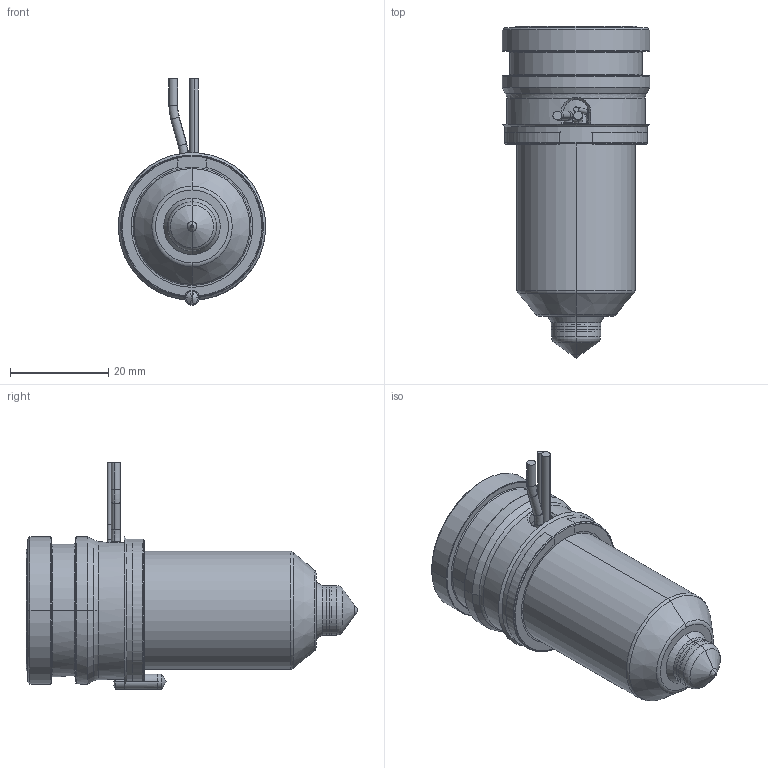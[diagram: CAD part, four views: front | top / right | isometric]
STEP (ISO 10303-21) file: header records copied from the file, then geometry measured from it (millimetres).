
FILE_DESCRIPTION((''),'2;1');
FILE_NAME('MPN-10-29-TX10-046-A','2026-02-11T11:16:36',('UVRWS'),('Thermoplay S.p.A.'),'CREO PARAMETRIC BY PTC INC, 2023494','CREO PARAMETRIC BY PTC INC, 2023494','');
FILE_SCHEMA(('CONFIG_CONTROL_DESIGN','SHAPE_APPEARANCE_LAYERS_GROUPS'));
Length unit declared in the file: millimetre
Products named in the file (1): MPN-10-29-TX10-046-A
Bounding box: 30 x 67.5 x 46 mm (x, y, z)
Volume: 22538.9 mm3; surface area: 21153.6 mm2
Topology: 2 solids, 3 shells, 522 faces, 1383 edges, 857 vertices
Faces by surface type: cylinder 178, plane 132, bspline 68, cone 66, torus 63, sphere 11, extrusion 4
Entity records: 28546 total; most frequent: CARTESIAN_POINT 13008, ORIENTED_EDGE 2750, DIRECTION 2513, EDGE_CURVE 1375, AXIS2_PLACEMENT_3D 992, VERTEX_POINT 857, EDGE_LOOP 550, CIRCLE 541
